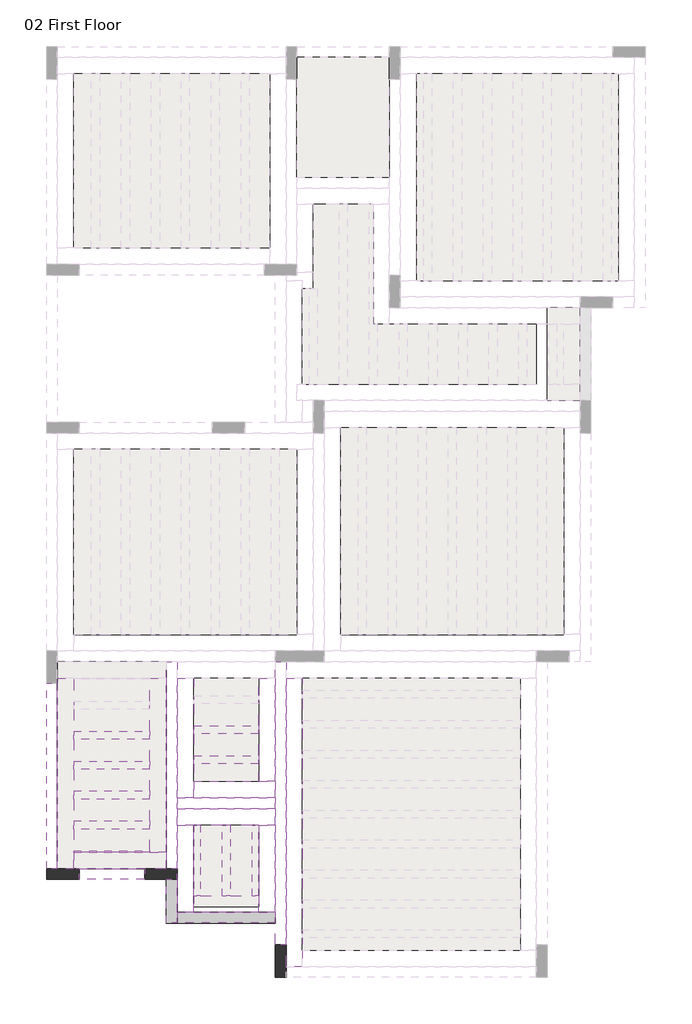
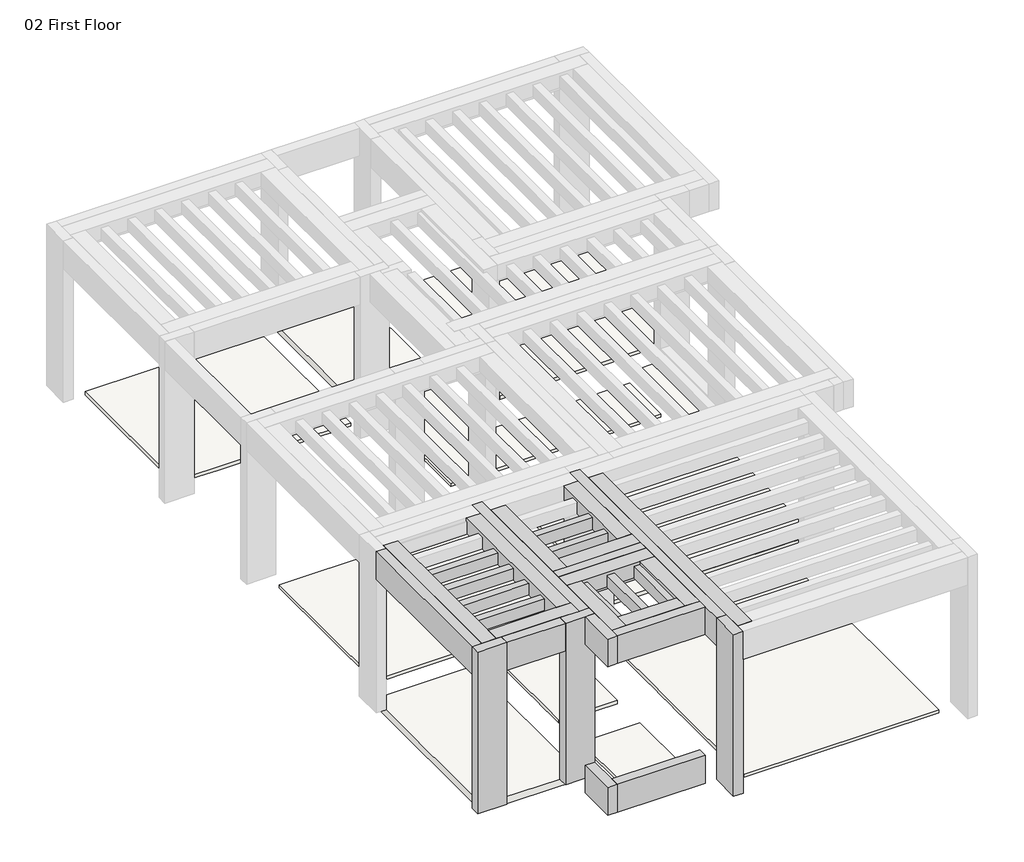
# One storey, part 1 of 3: 30 beams, 11 slabs, 3 columns.
"""IFC4 building model written with IfcOpenShell, lengths in millimetres."""

from ifc_helpers import new_model, si_unit, frame, origin, place, context, project, spatial, polyline, outline, extrude, faceted_brep, element, save

model = new_model("IFC4")

# Units and contexts
model_context = context("Model", 3, world=origin())
ifc_project = project(units=[si_unit("LENGTHUNIT", "METRE", prefix="MILLI")], contexts=[model_context])

# Site, building, storey
site = spatial("IfcSite", under=ifc_project)
building = spatial("IfcBuilding", under=site)
storey = spatial("IfcBuildingStorey", under=building, Name="02 First Floor", Elevation=3500.0)

# Beams
placement = place(None, origin())
element("IfcBeam", 1, ObjectType="M_Concrete-Rectangular Beam : DB1- 20 x 60 cm", at=placement, inside=storey, context=model_context, shape_type="Brep", body=[
    faceted_brep([(-5601.9262989, -3455.0041655, 7000.0), (-5801.9262989, -3455.0041655, 7000.0), (-5801.9262989, -6855.0041655, 7000.0), (-5601.9262989, -6855.0041655, 7000.0), (-5801.9262989, -3455.0041655, 6400.0), (-5801.9262989, -6855.0041655, 6400.0), (-5601.9262989, -3455.0041655, 6400.0), (-5601.9262989, -6855.0041655, 6400.0), (-5601.9262989, -6855.0041655, 6680.0)], [[[0, 1, 2, 3]], [[1, 4, 5, 2]], [[4, 6, 7, 5]], [[6, 0, 3, 8, 7]], [[1, 0, 6, 4]], [[3, 2, 5, 7, 8]]]),
])
element("IfcBeam", 2, ObjectType="M_Concrete-Rectangular Beam : DB1- 20 x 60 cm", at=placement, inside=storey, context=model_context, shape_type="SweptSolid", body=[
    extrude(outline(polyline([(-5201.9262989, -7055.0041655), (-5201.9262989, -6855.0041655), (-4001.9262989, -6855.0041655), (-4001.9262989, -7055.0041655), (-5201.9262989, -7055.0041655)])), frame((0.0, 0.0, 6400.0), z_axis=(0.0, 0.0, 1.0), x_axis=(1.0, 0.0, 0.0)), (0.0, 0.0, 1.0), 600.0),
])
element("IfcBeam", 3, ObjectType="M_Concrete-Rectangular Beam : DB1- 20 x 60 cm", at=placement, inside=storey, context=model_context, shape_type="Brep", body=[
    faceted_brep([(-3401.9262989, -5555.0041655, 7000.0), (-3401.9262989, -5755.0041655, 7000.0), (-1601.9262989, -5755.0041655, 7000.0), (-1601.9262989, -5555.0041655, 7000.0), (-3101.9262989, -5555.0041655, 7000.0), (-3401.9262989, -5555.0041655, 6400.0), (-3401.9262989, -5555.0041655, 6680.0), (-1601.9262989, -5555.0041655, 6680.0), (-1601.9262989, -5555.0041655, 6400.0), (-3401.9262989, -5755.0041655, 6400.0), (-1601.9262989, -5755.0041655, 6400.0), (-3401.9262989, -5755.0041655, 6680.0), (-1601.9262989, -5755.0041655, 6680.0)], [[[0, 1, 2, 3, 4]], [[5, 6, 0, 4, 3, 7, 8]], [[9, 5, 8, 10]], [[1, 11, 9, 10, 12, 2]], [[1, 0, 6, 5, 9, 11]], [[3, 2, 12, 10, 8, 7]]]),
])
element("IfcBeam", 4, ObjectType="M_Concrete-Rectangular Beam : DB1- 20 x 60 cm", at=placement, inside=storey, context=model_context, shape_type="Brep", body=[
    faceted_brep([(-3401.9262989, -7655.0041655, 7000.0), (-3401.9262989, -7855.0041655, 7000.0), (-1601.9262989, -7855.0041655, 7000.0), (-1601.9262989, -7655.0041655, 7000.0), (-1901.9262989, -7655.0041655, 7000.0), (-3101.9262989, -7655.0041655, 7000.0), (-3401.9262989, -7655.0041655, 6400.0), (-3401.9262989, -7655.0041655, 6680.0), (-1601.9262989, -7655.0041655, 6680.0), (-1601.9262989, -7655.0041655, 6400.0), (-3401.9262989, -7855.0041655, 6400.0), (-1601.9262989, -7855.0041655, 6400.0)], [[[0, 1, 2, 3, 4, 5]], [[6, 7, 0, 5, 4, 3, 8, 9]], [[10, 6, 9, 11]], [[1, 10, 11, 2]], [[1, 0, 7, 6, 10]], [[3, 2, 11, 9, 8]]]),
])
element("IfcBeam", 5, ObjectType="M_Concrete-Rectangular Beam : DB1- 20 x 60 cm", at=placement, inside=storey, context=model_context, shape_type="Brep", body=[
    faceted_brep([(-1601.9262989, -7855.0041655, 3780.0), (-1601.9262989, -7855.0041655, 3180.0), (-1601.9262989, -7655.0041655, 3180.0), (-1601.9262989, -7655.0041655, 3500.0), (-1601.9262989, -7655.0041655, 3780.0), (-3401.9262989, -7655.0041655, 3780.0), (-3401.9262989, -7855.0041655, 3780.0), (-3101.9262989, -7655.0041655, 3180.0), (-3401.9262989, -7655.0041655, 3180.0), (-3401.9262989, -7655.0041655, 3500.0), (-3401.9262989, -7855.0041655, 3180.0)], [[[0, 1, 2, 3, 4]], [[0, 4, 5, 6]], [[4, 3, 2, 7, 8, 9, 5]], [[2, 1, 10, 8, 7]], [[1, 0, 6, 10]], [[6, 5, 9, 8, 10]]]),
])
element("IfcBeam", 6, ObjectType="M_Concrete-Rectangular Beam : DB2- 20 x 60 cm", at=placement, inside=storey, context=model_context, shape_type="Brep", body=[
    faceted_brep([(-3401.9262989, -3055.0041655, 7000.0), (-3601.9262989, -3055.0041655, 7000.0), (-3601.9262989, -3355.0041655, 7000.0), (-3601.9262989, -6555.0041655, 7000.0), (-3601.9262989, -6855.0041655, 7000.0), (-3401.9262989, -6855.0041655, 7000.0), (-3401.9262989, -6055.0041655, 7000.0), (-3401.9262989, -5755.0041655, 7000.0), (-3401.9262989, -5555.0041655, 7000.0), (-3401.9262989, -3355.0041655, 7000.0), (-3401.9262989, -3055.0041655, 6400.0), (-3401.9262989, -3055.0041655, 6680.0), (-3401.9262989, -6855.0041655, 6400.0), (-3401.9262989, -5755.0041655, 6400.0), (-3401.9262989, -5555.0041655, 6400.0), (-3601.9262989, -3055.0041655, 6400.0), (-3601.9262989, -6855.0041655, 6400.0), (-3601.9262989, -3055.0041655, 6680.0), (-3601.9262989, -6855.0041655, 6680.0)], [[[0, 1, 2, 3, 4, 5, 6, 7, 8, 9]], [[10, 11, 0, 9, 8, 7, 6, 5, 12, 13, 14]], [[15, 10, 14, 13, 12, 16]], [[1, 17, 15, 16, 18, 4, 3, 2]], [[1, 0, 11, 10, 15, 17]], [[5, 4, 18, 16, 12]]]),
])
element("IfcBeam", 7, ObjectType="M_Concrete-Rectangular Beam : DB2- 20 x 60 cm", at=placement, inside=storey, context=model_context, shape_type="Brep", body=[
    faceted_brep([(-1601.9262989, -8255.0041655, 7000.0), (-1401.9262989, -8255.0041655, 7000.0), (-1401.9262989, -3355.0041655, 7000.0), (-1401.9262989, -3055.0041655, 7000.0), (-1601.9262989, -3055.0041655, 7000.0), (-1601.9262989, -3355.0041655, 7000.0), (-1601.9262989, -5255.0041655, 7000.0), (-1601.9262989, -5555.0041655, 7000.0), (-1601.9262989, -5755.0041655, 7000.0), (-1601.9262989, -6055.0041655, 7000.0), (-1601.9262989, -7655.0041655, 7000.0), (-1601.9262989, -7855.0041655, 7000.0), (-1401.9262989, -8255.0041655, 6400.0), (-1401.9262989, -3055.0041655, 6400.0), (-1401.9262989, -3055.0041655, 6680.0), (-1601.9262989, -8255.0041655, 6400.0), (-1601.9262989, -7855.0041655, 6400.0), (-1601.9262989, -7655.0041655, 6400.0), (-1601.9262989, -5755.0041655, 6400.0), (-1601.9262989, -5555.0041655, 6400.0), (-1601.9262989, -3055.0041655, 6400.0), (-1601.9262989, -3055.0041655, 6680.0)], [[[0, 1, 2, 3, 4, 5, 6, 7, 8, 9, 10, 11]], [[1, 12, 13, 14, 3, 2]], [[12, 15, 16, 17, 18, 19, 20, 13]], [[15, 0, 11, 10, 9, 8, 7, 6, 5, 4, 21, 20, 19, 18, 17, 16]], [[1, 0, 15, 12]], [[4, 3, 14, 13, 20, 21]]]),
])
element("IfcBeam", 8, ObjectType="M_Concrete-Rectangular Beam : DBC- 20 x 60 cm", at=placement, inside=storey, context=model_context, shape_type="Brep", body=[
    faceted_brep([(-3601.9262989, -7855.0041655, 7000.0), (-3401.9262989, -7855.0041655, 7000.0), (-3401.9262989, -7655.0041655, 7000.0), (-3401.9262989, -7055.0041655, 7000.0), (-3601.9262989, -7055.0041655, 7000.0), (-3601.9262989, -7855.0041655, 6400.0), (-3601.9262989, -7055.0041655, 6400.0), (-3401.9262989, -7855.0041655, 6400.0), (-3401.9262989, -7055.0041655, 6400.0), (-3401.9262989, -7655.0041655, 6400.0)], [[[0, 1, 2, 3, 4]], [[5, 0, 4, 6]], [[7, 5, 6, 8, 9]], [[1, 7, 9, 8, 3, 2]], [[4, 3, 8, 6]], [[1, 0, 5, 7]]]),
])
element("IfcBeam", 9, ObjectType="M_Concrete-Rectangular Beam : DBC- 20 x 60 cm", at=placement, inside=storey, context=model_context, shape_type="Brep", body=[
    faceted_brep([(-3401.9262989, -7055.0041655, 3780.0), (-3601.9262989, -7055.0041655, 3780.0), (-3601.9262989, -7855.0041655, 3780.0), (-3401.9262989, -7855.0041655, 3780.0), (-3401.9262989, -7655.0041655, 3780.0), (-3601.9262989, -7055.0041655, 3180.0), (-3601.9262989, -7855.0041655, 3180.0), (-3401.9262989, -7855.0041655, 3180.0), (-3401.9262989, -7055.0041655, 3180.0), (-3401.9262989, -7655.0041655, 3180.0), (-3401.9262989, -7055.0041655, 3500.0)], [[[0, 1, 2, 3, 4]], [[1, 5, 6, 2]], [[7, 6, 5, 8, 9]], [[8, 10, 0, 4, 3, 7, 9]], [[1, 0, 10, 8, 5]], [[3, 2, 6, 7]]]),
])
element("IfcBeam", 10, ObjectType="M_Concrete-Rectangular Beam : P- 30 x 32 cm", at=placement, inside=storey, context=model_context, shape_type="Brep", body=[
    faceted_brep([(-1401.9262989, -8655.0041655, 7000.0), (-1101.9262989, -8655.0041655, 7000.0), (-1101.9262989, -8355.0041655, 7000.0), (-1101.9262989, -3355.0041655, 7000.0), (-1401.9262989, -3355.0041655, 7000.0), (-1401.9262989, -8255.0041655, 7000.0), (-1401.9262989, -8655.0041655, 6680.0), (-1401.9262989, -3355.0041655, 6680.0), (-1101.9262989, -8655.0041655, 6680.0), (-1101.9262989, -3355.0041655, 6680.0), (-1101.9262989, -3580.0041655, 6680.0), (-1101.9262989, -3730.0041655, 6680.0), (-1101.9262989, -4130.0041655, 6680.0), (-1101.9262989, -4280.0041655, 6680.0), (-1101.9262989, -4680.0041655, 6680.0), (-1101.9262989, -4830.0041655, 6680.0), (-1101.9262989, -5230.0041655, 6680.0), (-1101.9262989, -5380.0041655, 6680.0), (-1101.9262989, -5780.0041655, 6680.0), (-1101.9262989, -5930.0041655, 6680.0), (-1101.9262989, -6330.0041655, 6680.0), (-1101.9262989, -6480.0041655, 6680.0), (-1101.9262989, -6880.0041655, 6680.0), (-1101.9262989, -7030.0041655, 6680.0), (-1101.9262989, -7430.0041655, 6680.0), (-1101.9262989, -7580.0041655, 6680.0), (-1101.9262989, -7980.0041655, 6680.0), (-1101.9262989, -8130.0041655, 6680.0), (-1101.9262989, -8355.0041655, 6680.0), (-1101.9262989, -3355.0041655, 6930.0)], [[[0, 1, 2, 3, 4, 5]], [[6, 0, 5, 4, 7]], [[8, 6, 7, 9, 10, 11, 12, 13, 14, 15, 16, 17, 18, 19, 20, 21, 22, 23, 24, 25, 26, 27, 28]], [[1, 8, 28, 27, 26, 25, 24, 23, 22, 21, 20, 19, 18, 17, 16, 15, 14, 13, 12, 11, 10, 9, 29, 3, 2]], [[4, 3, 29, 9, 7]], [[1, 0, 6, 8]]]),
])
element("IfcBeam", 11, ObjectType="M_Concrete-Rectangular Beam : P- 30 x 32 cm", at=placement, inside=storey, context=model_context, shape_type="Brep", body=[
    faceted_brep([(-3401.9262989, -5555.0041655, 7000.0), (-3101.9262989, -5555.0041655, 7000.0), (-3101.9262989, -5255.0041655, 7000.0), (-3101.9262989, -3355.0041655, 7000.0), (-3401.9262989, -3355.0041655, 7000.0), (-3401.9262989, -5555.0041655, 6680.0), (-3401.9262989, -3355.0041655, 6680.0), (-3101.9262989, -5555.0041655, 6680.0), (-3101.9262989, -3355.0041655, 6680.0), (-3101.9262989, -3680.0041655, 6680.0), (-3101.9262989, -3830.0041655, 6680.0), (-3101.9262989, -4230.0041655, 6680.0), (-3101.9262989, -4380.0041655, 6680.0), (-3101.9262989, -4780.0041655, 6680.0), (-3101.9262989, -4930.0041655, 6680.0), (-3101.9262989, -5255.0041655, 6680.0), (-3101.9262989, -3355.0041655, 6930.0)], [[[0, 1, 2, 3, 4]], [[5, 0, 4, 6]], [[7, 5, 6, 8, 9, 10, 11, 12, 13, 14, 15]], [[1, 7, 15, 14, 13, 12, 11, 10, 9, 8, 16, 3, 2]], [[4, 3, 16, 8, 6]], [[1, 0, 5, 7]]]),
])
element("IfcBeam", 12, ObjectType="M_Concrete-Rectangular Beam : P- 30 x 32 cm", at=placement, inside=storey, context=model_context, shape_type="Brep", body=[
    faceted_brep([(-1601.9262989, -5555.0041655, 7000.0), (-1601.9262989, -5255.0041655, 7000.0), (-1901.9262989, -5255.0041655, 7000.0), (-3101.9262989, -5255.0041655, 7000.0), (-3101.9262989, -5555.0041655, 7000.0), (-1601.9262989, -5555.0041655, 6680.0), (-3101.9262989, -5555.0041655, 6680.0), (-1601.9262989, -5255.0041655, 6680.0), (-3101.9262989, -5255.0041655, 6680.0), (-1901.9262989, -5255.0041655, 6680.0), (-3101.9262989, -5255.0041655, 6930.0)], [[[0, 1, 2, 3, 4]], [[5, 0, 4, 6]], [[7, 5, 6, 8, 9]], [[1, 7, 9, 8, 10, 3, 2]], [[4, 3, 10, 8, 6]], [[1, 0, 5, 7]]]),
])
element("IfcBeam", 13, ObjectType="M_Concrete-Rectangular Beam : P- 30 x 32 cm", at=placement, inside=storey, context=model_context, shape_type="Brep", body=[
    faceted_brep([(-1901.9262989, -5255.0041655, 7000.0), (-1601.9262989, -5255.0041655, 7000.0), (-1601.9262989, -3355.0041655, 7000.0), (-1901.9262989, -3355.0041655, 7000.0), (-1601.9262989, -5255.0041655, 6680.0), (-1601.9262989, -3355.0041655, 6680.0), (-1901.9262989, -5255.0041655, 6680.0), (-1901.9262989, -4930.0041655, 6680.0), (-1901.9262989, -4780.0041655, 6680.0), (-1901.9262989, -4380.0041655, 6680.0), (-1901.9262989, -4230.0041655, 6680.0), (-1901.9262989, -3830.0041655, 6680.0), (-1901.9262989, -3680.0041655, 6680.0), (-1901.9262989, -3355.0041655, 6680.0), (-1901.9262989, -5255.0041655, 6930.0), (-1901.9262989, -3355.0041655, 6930.0)], [[[0, 1, 2, 3]], [[1, 4, 5, 2]], [[4, 6, 7, 8, 9, 10, 11, 12, 13, 5]], [[6, 14, 0, 3, 15, 13, 12, 11, 10, 9, 8, 7]], [[1, 0, 14, 6, 4]], [[3, 2, 5, 13, 15]]]),
])
element("IfcBeam", 14, ObjectType="M_Concrete-Rectangular Beam : P- 30 x 32 cm", at=placement, inside=storey, context=model_context, shape_type="Brep", body=[
    faceted_brep([(-3401.9262989, -5755.0041655, 7000.0), (-3401.9262989, -6055.0041655, 7000.0), (-3101.9262989, -6055.0041655, 7000.0), (-1901.9262989, -6055.0041655, 7000.0), (-1601.9262989, -6055.0041655, 7000.0), (-1601.9262989, -5755.0041655, 7000.0), (-3401.9262989, -5755.0041655, 6680.0), (-1601.9262989, -5755.0041655, 6680.0), (-3401.9262989, -6055.0041655, 6680.0), (-1601.9262989, -6055.0041655, 6680.0), (-1901.9262989, -6055.0041655, 6680.0), (-2026.9262989, -6055.0041655, 6680.0), (-2426.9262989, -6055.0041655, 6680.0), (-2576.9262989, -6055.0041655, 6680.0), (-2976.9262989, -6055.0041655, 6680.0), (-3101.9262989, -6055.0041655, 6680.0)], [[[0, 1, 2, 3, 4, 5]], [[6, 0, 5, 7]], [[8, 6, 7, 9, 10, 11, 12, 13, 14, 15]], [[1, 8, 15, 14, 13, 12, 11, 10, 9, 4, 3, 2]], [[1, 0, 6, 8]], [[5, 4, 9, 7]]]),
])
element("IfcBeam", 15, ObjectType="M_Concrete-Rectangular Beam : P- 30 x 32 cm", at=placement, inside=storey, context=model_context, shape_type="Brep", body=[
    faceted_brep([(-3101.9262989, -6055.0041655, 7000.0), (-3401.9262989, -6055.0041655, 7000.0), (-3401.9262989, -6855.0041655, 7000.0), (-3401.9262989, -7055.0041655, 7000.0), (-3401.9262989, -7655.0041655, 7000.0), (-3101.9262989, -7655.0041655, 7000.0), (-3101.9262989, -7355.0041655, 7000.0), (-3401.9262989, -6055.0041655, 6680.0), (-3401.9262989, -7655.0041655, 6680.0), (-3101.9262989, -6055.0041655, 6680.0), (-3101.9262989, -7355.0041655, 6680.0), (-3101.9262989, -7655.0041655, 6680.0), (-3101.9262989, -6055.0041655, 6930.0)], [[[0, 1, 2, 3, 4, 5, 6]], [[1, 7, 8, 4, 3, 2]], [[7, 9, 10, 11, 8]], [[9, 12, 0, 6, 5, 11, 10]], [[1, 0, 12, 9, 7]], [[5, 4, 8, 11]]]),
])
element("IfcBeam", 16, ObjectType="M_Concrete-Rectangular Beam : P- 30 x 32 cm", at=placement, inside=storey, context=model_context, shape_type="Brep", body=[
    faceted_brep([(-3101.9262989, -7355.0041655, 7000.0), (-3101.9262989, -7655.0041655, 7000.0), (-1901.9262989, -7655.0041655, 7000.0), (-1901.9262989, -7355.0041655, 7000.0), (-3101.9262989, -7655.0041655, 6680.0), (-1901.9262989, -7655.0041655, 6680.0), (-3101.9262989, -7355.0041655, 6680.0), (-2976.9262989, -7355.0041655, 6680.0), (-2576.9262989, -7355.0041655, 6680.0), (-2426.9262989, -7355.0041655, 6680.0), (-2026.9262989, -7355.0041655, 6680.0), (-1901.9262989, -7355.0041655, 6680.0), (-3101.9262989, -7355.0041655, 6930.0), (-1901.9262989, -7355.0041655, 6930.0)], [[[0, 1, 2, 3]], [[1, 4, 5, 2]], [[4, 6, 7, 8, 9, 10, 11, 5]], [[6, 12, 0, 3, 13, 11, 10, 9, 8, 7]], [[1, 0, 12, 6, 4]], [[3, 2, 5, 11, 13]]]),
])
element("IfcBeam", 17, ObjectType="M_Concrete-Rectangular Beam : P- 30 x 32 cm", at=placement, inside=storey, context=model_context, shape_type="Brep", body=[
    faceted_brep([(-1601.9262989, -6055.0041655, 7000.0), (-1901.9262989, -6055.0041655, 7000.0), (-1901.9262989, -7355.0041655, 7000.0), (-1901.9262989, -7655.0041655, 7000.0), (-1601.9262989, -7655.0041655, 7000.0), (-1601.9262989, -6055.0041655, 6680.0), (-1601.9262989, -7655.0041655, 6680.0), (-1901.9262989, -6055.0041655, 6680.0), (-1901.9262989, -7655.0041655, 6680.0), (-1901.9262989, -7355.0041655, 6680.0), (-1901.9262989, -6055.0041655, 6930.0)], [[[0, 1, 2, 3, 4]], [[5, 0, 4, 6]], [[7, 5, 6, 8, 9]], [[1, 10, 7, 9, 8, 3, 2]], [[1, 0, 5, 7, 10]], [[4, 3, 8, 6]]]),
])
element("IfcBeam", 18, ObjectType="M_Concrete-Rectangular Beam : P- 30 x 32 cm", at=placement, inside=storey, context=model_context, shape_type="Brep", body=[
    faceted_brep([(-5601.9262989, -6855.0041655, 7000.0), (-5301.9262989, -6855.0041655, 7000.0), (-5301.9262989, -6555.0041655, 7000.0), (-5301.9262989, -3355.0041655, 7000.0), (-5601.9262989, -3355.0041655, 7000.0), (-5601.9262989, -3455.0041655, 7000.0), (-5601.9262989, -6855.0041655, 6680.0), (-5601.9262989, -3355.0041655, 6680.0), (-5301.9262989, -6855.0041655, 6680.0), (-5301.9262989, -3355.0041655, 6680.0), (-5301.9262989, -3380.0041655, 6680.0), (-5301.9262989, -3780.0041655, 6680.0), (-5301.9262989, -3930.0041655, 6680.0), (-5301.9262989, -4330.0041655, 6680.0), (-5301.9262989, -4480.0041655, 6680.0), (-5301.9262989, -4880.0041655, 6680.0), (-5301.9262989, -5030.0041655, 6680.0), (-5301.9262989, -5430.0041655, 6680.0), (-5301.9262989, -5580.0041655, 6680.0), (-5301.9262989, -5980.0041655, 6680.0), (-5301.9262989, -6130.0041655, 6680.0), (-5301.9262989, -6530.0041655, 6680.0), (-5301.9262989, -6555.0041655, 6680.0), (-5301.9262989, -3355.0041655, 6930.0)], [[[0, 1, 2, 3, 4, 5]], [[6, 0, 5, 4, 7]], [[8, 6, 7, 9, 10, 11, 12, 13, 14, 15, 16, 17, 18, 19, 20, 21, 22]], [[1, 8, 22, 21, 20, 19, 18, 17, 16, 15, 14, 13, 12, 11, 10, 9, 23, 3, 2]], [[4, 3, 23, 9, 7]], [[1, 0, 6, 8]]]),
])
element("IfcBeam", 19, ObjectType="M_Concrete-Rectangular Beam : P- 30 x 32 cm", at=placement, inside=storey, context=model_context, shape_type="Brep", body=[
    faceted_brep([(-3601.9262989, -6855.0041655, 7000.0), (-3601.9262989, -6555.0041655, 7000.0), (-3901.9262989, -6555.0041655, 7000.0), (-5301.9262989, -6555.0041655, 7000.0), (-5301.9262989, -6855.0041655, 7000.0), (-5201.9262989, -6855.0041655, 7000.0), (-4001.9262989, -6855.0041655, 7000.0), (-3601.9262989, -6855.0041655, 6680.0), (-5301.9262989, -6855.0041655, 6680.0), (-3601.9262989, -6555.0041655, 6680.0), (-5301.9262989, -6555.0041655, 6680.0), (-3901.9262989, -6555.0041655, 6680.0), (-5301.9262989, -6555.0041655, 6930.0)], [[[0, 1, 2, 3, 4, 5, 6]], [[7, 0, 6, 5, 4, 8]], [[9, 7, 8, 10, 11]], [[1, 9, 11, 10, 12, 3, 2]], [[4, 3, 12, 10, 8]], [[1, 0, 7, 9]]]),
])
element("IfcBeam", 20, ObjectType="M_Concrete-Rectangular Beam : P- 30 x 32 cm", at=placement, inside=storey, context=model_context, shape_type="Brep", body=[
    faceted_brep([(-3601.9262989, -3355.0041655, 7000.0), (-3901.9262989, -3355.0041655, 7000.0), (-3901.9262989, -6555.0041655, 7000.0), (-3601.9262989, -6555.0041655, 7000.0), (-3601.9262989, -3355.0041655, 6680.0), (-3601.9262989, -6555.0041655, 6680.0), (-3901.9262989, -3355.0041655, 6680.0), (-3901.9262989, -6555.0041655, 6680.0), (-3901.9262989, -6530.0041655, 6680.0), (-3901.9262989, -6130.0041655, 6680.0), (-3901.9262989, -5980.0041655, 6680.0), (-3901.9262989, -5580.0041655, 6680.0), (-3901.9262989, -5430.0041655, 6680.0), (-3901.9262989, -5030.0041655, 6680.0), (-3901.9262989, -4880.0041655, 6680.0), (-3901.9262989, -4480.0041655, 6680.0), (-3901.9262989, -4330.0041655, 6680.0), (-3901.9262989, -3930.0041655, 6680.0), (-3901.9262989, -3780.0041655, 6680.0), (-3901.9262989, -3380.0041655, 6680.0), (-3901.9262989, -3355.0041655, 6930.0), (-3901.9262989, -6555.0041655, 6930.0)], [[[0, 1, 2, 3]], [[4, 0, 3, 5]], [[6, 4, 5, 7, 8, 9, 10, 11, 12, 13, 14, 15, 16, 17, 18, 19]], [[1, 20, 6, 19, 18, 17, 16, 15, 14, 13, 12, 11, 10, 9, 8, 7, 21, 2]], [[1, 0, 4, 6, 20]], [[3, 2, 21, 7, 5]]]),
])
element("IfcBeam", 21, ObjectType="M_Pan Joist : RB1- 32 x 15", at=placement, inside=storey, context=model_context, shape_type="SweptSolid", body=[
    extrude(outline(polyline([(-3101.9262989, -4930.0041655), (-3101.9262989, -4780.0041655), (-1901.9262989, -4780.0041655), (-1901.9262989, -4930.0041655), (-3101.9262989, -4930.0041655)])), frame((0.0, 0.0, 6680.0), z_axis=(0.0, 0.0, 1.0), x_axis=(1.0, 0.0, 0.0)), (0.0, 0.0, 1.0), 250.0),
])
element("IfcBeam", 22, ObjectType="M_Pan Joist : RB1- 32 x 15", at=placement, inside=storey, context=model_context, shape_type="SweptSolid", body=[
    extrude(outline(polyline([(-3101.9262989, -4380.0041655), (-3101.9262989, -4230.0041655), (-1901.9262989, -4230.0041655), (-1901.9262989, -4380.0041655), (-3101.9262989, -4380.0041655)])), frame((0.0, 0.0, 6680.0), z_axis=(0.0, 0.0, 1.0), x_axis=(1.0, 0.0, 0.0)), (0.0, 0.0, 1.0), 250.0),
])
element("IfcBeam", 23, ObjectType="M_Pan Joist : RB1- 32 x 15", at=placement, inside=storey, context=model_context, shape_type="SweptSolid", body=[
    extrude(outline(polyline([(-3101.9262989, -6055.0041655), (-2976.9262989, -6055.0041655), (-2976.9262989, -7355.0041655), (-3101.9262989, -7355.0041655), (-3101.9262989, -6055.0041655)])), frame((0.0, 0.0, 6680.0), z_axis=(0.0, 0.0, 1.0), x_axis=(1.0, 0.0, 0.0)), (0.0, 0.0, 1.0), 250.0),
])
element("IfcBeam", 24, ObjectType="M_Pan Joist : RB1- 32 x 15", at=placement, inside=storey, context=model_context, shape_type="SweptSolid", body=[
    extrude(outline(polyline([(-2576.9262989, -6055.0041655), (-2426.9262989, -6055.0041655), (-2426.9262989, -7355.0041655), (-2576.9262989, -7355.0041655), (-2576.9262989, -6055.0041655)])), frame((0.0, 0.0, 6680.0), z_axis=(0.0, 0.0, 1.0), x_axis=(1.0, 0.0, 0.0)), (0.0, 0.0, 1.0), 250.0),
])
element("IfcBeam", 25, ObjectType="M_Pan Joist : RB1- 32 x 15", at=placement, inside=storey, context=model_context, shape_type="SweptSolid", body=[
    extrude(outline(polyline([(-2026.9262989, -6055.0041655), (-1901.9262989, -6055.0041655), (-1901.9262989, -7355.0041655), (-2026.9262989, -7355.0041655), (-2026.9262989, -6055.0041655)])), frame((0.0, 0.0, 6680.0), z_axis=(0.0, 0.0, 1.0), x_axis=(1.0, 0.0, 0.0)), (0.0, 0.0, 1.0), 250.0),
])
element("IfcBeam", 26, ObjectType="M_Pan Joist : RB1- 32 x 15", at=placement, inside=storey, context=model_context, shape_type="SweptSolid", body=[
    extrude(outline(polyline([(-5301.9262989, -6530.0041655), (-3901.9262989, -6530.0041655), (-3901.9262989, -6555.0041655), (-5301.9262989, -6555.0041655), (-5301.9262989, -6530.0041655)])), frame((0.0, 0.0, 6680.0), z_axis=(0.0, 0.0, 1.0), x_axis=(1.0, 0.0, 0.0)), (0.0, 0.0, 1.0), 250.0),
])
element("IfcBeam", 27, ObjectType="M_Pan Joist : RB1- 32 x 15", at=placement, inside=storey, context=model_context, shape_type="SweptSolid", body=[
    extrude(outline(polyline([(-5301.9262989, -6130.0041655), (-5301.9262989, -5980.0041655), (-3901.9262989, -5980.0041655), (-3901.9262989, -6130.0041655), (-5301.9262989, -6130.0041655)])), frame((0.0, 0.0, 6680.0), z_axis=(0.0, 0.0, 1.0), x_axis=(1.0, 0.0, 0.0)), (0.0, 0.0, 1.0), 250.0),
])
element("IfcBeam", 28, ObjectType="M_Pan Joist : RB1- 32 x 15", at=placement, inside=storey, context=model_context, shape_type="SweptSolid", body=[
    extrude(outline(polyline([(-5301.9262989, -5580.0041655), (-5301.9262989, -5430.0041655), (-3901.9262989, -5430.0041655), (-3901.9262989, -5580.0041655), (-5301.9262989, -5580.0041655)])), frame((0.0, 0.0, 6680.0), z_axis=(0.0, 0.0, 1.0), x_axis=(1.0, 0.0, 0.0)), (0.0, 0.0, 1.0), 250.0),
])
element("IfcBeam", 29, ObjectType="M_Pan Joist : RB1- 32 x 15", at=placement, inside=storey, context=model_context, shape_type="SweptSolid", body=[
    extrude(outline(polyline([(-5301.9262989, -5030.0041655), (-5301.9262989, -4880.0041655), (-3901.9262989, -4880.0041655), (-3901.9262989, -5030.0041655), (-5301.9262989, -5030.0041655)])), frame((0.0, 0.0, 6680.0), z_axis=(0.0, 0.0, 1.0), x_axis=(1.0, 0.0, 0.0)), (0.0, 0.0, 1.0), 250.0),
])
element("IfcBeam", 30, ObjectType="M_Pan Joist : RB1- 32 x 15", at=placement, inside=storey, context=model_context, shape_type="SweptSolid", body=[
    extrude(outline(polyline([(-5301.9262989, -4480.0041655), (-5301.9262989, -4330.0041655), (-3901.9262989, -4330.0041655), (-3901.9262989, -4480.0041655), (-5301.9262989, -4480.0041655)])), frame((0.0, 0.0, 6680.0), z_axis=(0.0, 0.0, 1.0), x_axis=(1.0, 0.0, 0.0)), (0.0, 0.0, 1.0), 250.0),
])

# Columns
element("IfcColumn", 31, ObjectType="M_Concrete-Rectangular-Column : 20 x 60 cm", at=placement, inside=storey, context=model_context, shape_type="Brep", body=[
    faceted_brep([(-5201.9262989, -7055.0041655, 3500.0), (-5801.9262989, -7055.0041655, 3500.0), (-5801.9262989, -6855.0041655, 3500.0), (-5201.9262989, -6855.0041655, 3500.0), (-5201.9262989, -7055.0041655, 7000.0), (-5801.9262989, -7055.0041655, 7000.0), (-5801.9262989, -6855.0041655, 7000.0), (-5601.9262989, -6855.0041655, 7000.0), (-5301.9262989, -6855.0041655, 7000.0), (-5201.9262989, -6855.0041655, 7000.0)], [[[0, 1, 2, 3]], [[4, 5, 1, 0]], [[5, 6, 2, 1]], [[6, 7, 8, 9, 3, 2]], [[9, 4, 0, 3]], [[4, 9, 8, 7, 6, 5]]]),
])
element("IfcColumn", 32, ObjectType="M_Concrete-Rectangular-Column : 20 x 60 cm", at=placement, inside=storey, context=model_context, shape_type="Brep", body=[
    faceted_brep([(-3401.9262989, -7055.0041655, 3500.0), (-4001.9262989, -7055.0041655, 3500.0), (-4001.9262989, -6855.0041655, 3500.0), (-3401.9262989, -6855.0041655, 3500.0), (-3401.9262989, -7055.0041655, 7000.0), (-4001.9262989, -7055.0041655, 7000.0), (-4001.9262989, -6855.0041655, 7000.0), (-3601.9262989, -6855.0041655, 7000.0), (-3401.9262989, -6855.0041655, 7000.0)], [[[0, 1, 2, 3]], [[4, 5, 1, 0]], [[5, 6, 2, 1]], [[6, 7, 8, 3, 2]], [[8, 4, 0, 3]], [[4, 8, 7, 6, 5]]]),
])
element("IfcColumn", 33, ObjectType="M_Concrete-Rectangular-Column : 20 x 60 cm", at=placement, inside=storey, context=model_context, shape_type="Brep", body=[
    faceted_brep([(-1401.9262989, -8255.0041655, 3500.0), (-1401.9262989, -8855.0041655, 3500.0), (-1601.9262989, -8855.0041655, 3500.0), (-1601.9262989, -8255.0041655, 3500.0), (-1401.9262989, -8255.0041655, 7000.0), (-1401.9262989, -8655.0041655, 7000.0), (-1401.9262989, -8855.0041655, 7000.0), (-1601.9262989, -8855.0041655, 7000.0), (-1601.9262989, -8255.0041655, 7000.0)], [[[0, 1, 2, 3]], [[4, 5, 6, 1, 0]], [[6, 7, 2, 1]], [[7, 8, 3, 2]], [[8, 4, 0, 3]], [[4, 8, 7, 6, 5]]]),
])

# Slabs
element("IfcSlab", 34, ObjectType="Generic 15 cm", at=placement, inside=storey, context=model_context, shape_type="SweptSolid", body=[
    extrude(outline(polyline([(-1201.9262989, 8044.9958345), (498.0737011, 8044.9958345), (498.0737011, 5844.9958345), (-1201.9262989, 5844.9958345), (-1201.9262989, 8044.9958345)])), frame((0.0, 0.0, 3180.0), z_axis=(0.0, 0.0, 1.0), x_axis=(1.0, 0.0, 0.0)), (0.0, 0.0, 1.0), 150.0),
])
element("IfcSlab", 35, ObjectType="Generic 15 cm", at=placement, inside=storey, context=model_context, shape_type="Brep", body=[
    faceted_brep([(-5601.9262989, -3055.0041655, 3350.0), (-3601.9262989, -3055.0041655, 3350.0), (-3601.9262989, -6855.0041655, 3350.0), (-5601.9262989, -6855.0041655, 3350.0), (-5601.9262989, -3055.0041655, 3500.0), (-5601.9262989, -3455.0041655, 3500.0), (-5601.9262989, -6855.0041655, 3500.0), (-5201.9262989, -6855.0041655, 3500.0), (-4001.9262989, -6855.0041655, 3500.0), (-3601.9262989, -6855.0041655, 3500.0), (-3601.9262989, -3055.0041655, 3500.0)], [[[0, 1, 2, 3]], [[4, 5, 6, 7, 8, 9, 10]], [[1, 0, 4, 10]], [[2, 1, 10, 9]], [[3, 2, 9, 8, 7, 6]], [[0, 3, 6, 5, 4]]]),
])
element("IfcSlab", 36, ObjectType="Generic 7 cm", at=placement, inside=storey, context=model_context, shape_type="Brep", body=[
    faceted_brep([(-5301.9262989, 7744.9958345, 3430.0), (-4976.9262989, 7744.9958345, 3430.0), (-4826.9262989, 7744.9958345, 3430.0), (-4426.9262989, 7744.9958345, 3430.0), (-4276.9262989, 7744.9958345, 3430.0), (-3876.9262989, 7744.9958345, 3430.0), (-3726.9262989, 7744.9958345, 3430.0), (-3326.9262989, 7744.9958345, 3430.0), (-3176.9262989, 7744.9958345, 3430.0), (-2776.9262989, 7744.9958345, 3430.0), (-2626.9262989, 7744.9958345, 3430.0), (-2226.9262989, 7744.9958345, 3430.0), (-2076.9262989, 7744.9958345, 3430.0), (-1701.9262989, 7744.9958345, 3430.0), (-1701.9262989, 4544.9958345, 3430.0), (-2076.9262989, 4544.9958345, 3430.0), (-2226.9262989, 4544.9958345, 3430.0), (-2626.9262989, 4544.9958345, 3430.0), (-2776.9262989, 4544.9958345, 3430.0), (-3176.9262989, 4544.9958345, 3430.0), (-3326.9262989, 4544.9958345, 3430.0), (-3726.9262989, 4544.9958345, 3430.0), (-3876.9262989, 4544.9958345, 3430.0), (-4276.9262989, 4544.9958345, 3430.0), (-4426.9262989, 4544.9958345, 3430.0), (-4826.9262989, 4544.9958345, 3430.0), (-4976.9262989, 4544.9958345, 3430.0), (-5301.9262989, 4544.9958345, 3430.0), (-5301.9262989, 7744.9958345, 3500.0), (-5301.9262989, 4544.9958345, 3500.0), (-1701.9262989, 4544.9958345, 3500.0), (-1701.9262989, 7744.9958345, 3500.0)], [[[0, 1, 2, 3, 4, 5, 6, 7, 8, 9, 10, 11, 12, 13, 14, 15, 16, 17, 18, 19, 20, 21, 22, 23, 24, 25, 26, 27]], [[28, 29, 30, 31]], [[13, 12, 11, 10, 9, 8, 7, 6, 5, 4, 3, 2, 1, 0, 28, 31]], [[14, 13, 31, 30]], [[27, 26, 25, 24, 23, 22, 21, 20, 19, 18, 17, 16, 15, 14, 30, 29]], [[0, 27, 29, 28]]]),
])
element("IfcSlab", 37, ObjectType="Generic 7 cm", at=placement, inside=storey, context=model_context, shape_type="Brep", body=[
    faceted_brep([(998.0737011, 7744.9958345, 3430.0), (1123.0737011, 7744.9958345, 3430.0), (1273.0737011, 7744.9958345, 3430.0), (1673.0737011, 7744.9958345, 3430.0), (1823.0737011, 7744.9958345, 3430.0), (2223.0737011, 7744.9958345, 3430.0), (2373.0737011, 7744.9958345, 3430.0), (2773.0737011, 7744.9958345, 3430.0), (2923.0737011, 7744.9958345, 3430.0), (3323.0737011, 7744.9958345, 3430.0), (3473.0737011, 7744.9958345, 3430.0), (3873.0737011, 7744.9958345, 3430.0), (4023.0737011, 7744.9958345, 3430.0), (4423.0737011, 7744.9958345, 3430.0), (4573.0737011, 7744.9958345, 3430.0), (4698.0737011, 7744.9958345, 3430.0), (4698.0737011, 3944.9958345, 3430.0), (4573.0737011, 3944.9958345, 3430.0), (4423.0737011, 3944.9958345, 3430.0), (4023.0737011, 3944.9958345, 3430.0), (3873.0737011, 3944.9958345, 3430.0), (3473.0737011, 3944.9958345, 3430.0), (3323.0737011, 3944.9958345, 3430.0), (2923.0737011, 3944.9958345, 3430.0), (2773.0737011, 3944.9958345, 3430.0), (2373.0737011, 3944.9958345, 3430.0), (2223.0737011, 3944.9958345, 3430.0), (1823.0737011, 3944.9958345, 3430.0), (1673.0737011, 3944.9958345, 3430.0), (1273.0737011, 3944.9958345, 3430.0), (1123.0737011, 3944.9958345, 3430.0), (998.0737011, 3944.9958345, 3430.0), (998.0737011, 7744.9958345, 3500.0), (998.0737011, 3944.9958345, 3500.0), (4698.0737011, 3944.9958345, 3500.0), (4698.0737011, 7744.9958345, 3500.0)], [[[0, 1, 2, 3, 4, 5, 6, 7, 8, 9, 10, 11, 12, 13, 14, 15, 16, 17, 18, 19, 20, 21, 22, 23, 24, 25, 26, 27, 28, 29, 30, 31]], [[32, 33, 34, 35]], [[15, 14, 13, 12, 11, 10, 9, 8, 7, 6, 5, 4, 3, 2, 1, 0, 32, 35]], [[16, 15, 35, 34]], [[31, 30, 29, 28, 27, 26, 25, 24, 23, 22, 21, 20, 19, 18, 17, 16, 34, 33]], [[0, 31, 33, 32]]]),
])
element("IfcSlab", 38, ObjectType="Generic 7 cm", at=placement, inside=storey, context=model_context, shape_type="Brep", body=[
    faceted_brep([(3398.0737011, 3444.9958345, 3430.0), (3998.0737011, 3444.9958345, 3430.0), (3998.0737011, 3144.9958345, 3430.0), (3998.0737011, 1744.9958345, 3430.0), (3898.0737011, 1744.9958345, 3430.0), (3398.0737011, 1744.9958345, 3430.0), (3398.0737011, 2044.9958345, 3430.0), (3398.0737011, 2119.9958345, 3430.0), (3398.0737011, 2519.9958345, 3430.0), (3398.0737011, 2669.9958345, 3430.0), (3398.0737011, 3069.9958345, 3430.0), (3398.0737011, 3144.9958345, 3430.0), (3398.0737011, 3444.9958345, 3500.0), (3398.0737011, 1744.9958345, 3500.0), (3998.0737011, 1744.9958345, 3500.0), (3998.0737011, 3444.9958345, 3500.0)], [[[0, 1, 2, 3, 4, 5, 6, 7, 8, 9, 10, 11]], [[12, 13, 14, 15]], [[1, 0, 12, 15]], [[3, 2, 1, 15, 14]], [[5, 4, 3, 14, 13]], [[0, 11, 10, 9, 8, 7, 6, 5, 13, 12]]]),
])
element("IfcSlab", 39, ObjectType="Generic 7 cm", at=placement, inside=storey, context=model_context, shape_type="Brep", body=[
    faceted_brep([(-401.9262989, 1244.9958345, 3430.0), (-76.9262989, 1244.9958345, 3430.0), (73.0737011, 1244.9958345, 3430.0), (473.0737011, 1244.9958345, 3430.0), (623.0737011, 1244.9958345, 3430.0), (1023.0737011, 1244.9958345, 3430.0), (1173.0737011, 1244.9958345, 3430.0), (1573.0737011, 1244.9958345, 3430.0), (1723.0737011, 1244.9958345, 3430.0), (2123.0737011, 1244.9958345, 3430.0), (2273.0737011, 1244.9958345, 3430.0), (2673.0737011, 1244.9958345, 3430.0), (2823.0737011, 1244.9958345, 3430.0), (3223.0737011, 1244.9958345, 3430.0), (3373.0737011, 1244.9958345, 3430.0), (3698.0737011, 1244.9958345, 3430.0), (3698.0737011, -2555.0041655, 3430.0), (3373.0737011, -2555.0041655, 3430.0), (3223.0737011, -2555.0041655, 3430.0), (2823.0737011, -2555.0041655, 3430.0), (2673.0737011, -2555.0041655, 3430.0), (2273.0737011, -2555.0041655, 3430.0), (2123.0737011, -2555.0041655, 3430.0), (1723.0737011, -2555.0041655, 3430.0), (1573.0737011, -2555.0041655, 3430.0), (1173.0737011, -2555.0041655, 3430.0), (1023.0737011, -2555.0041655, 3430.0), (623.0737011, -2555.0041655, 3430.0), (473.0737011, -2555.0041655, 3430.0), (73.0737011, -2555.0041655, 3430.0), (-76.9262989, -2555.0041655, 3430.0), (-401.9262989, -2555.0041655, 3430.0), (-401.9262989, 1244.9958345, 3500.0), (-401.9262989, -2555.0041655, 3500.0), (3698.0737011, -2555.0041655, 3500.0), (3698.0737011, 1244.9958345, 3500.0)], [[[0, 1, 2, 3, 4, 5, 6, 7, 8, 9, 10, 11, 12, 13, 14, 15, 16, 17, 18, 19, 20, 21, 22, 23, 24, 25, 26, 27, 28, 29, 30, 31]], [[32, 33, 34, 35]], [[15, 14, 13, 12, 11, 10, 9, 8, 7, 6, 5, 4, 3, 2, 1, 0, 32, 35]], [[16, 15, 35, 34]], [[31, 30, 29, 28, 27, 26, 25, 24, 23, 22, 21, 20, 19, 18, 17, 16, 34, 33]], [[0, 31, 33, 32]]]),
])
element("IfcSlab", 40, ObjectType="Generic 7 cm", at=placement, inside=storey, context=model_context, shape_type="Brep", body=[
    faceted_brep([(-5301.9262989, 844.9958345, 3430.0), (-4976.9262989, 844.9958345, 3430.0), (-4826.9262989, 844.9958345, 3430.0), (-4426.9262989, 844.9958345, 3430.0), (-4276.9262989, 844.9958345, 3430.0), (-3876.9262989, 844.9958345, 3430.0), (-3726.9262989, 844.9958345, 3430.0), (-3326.9262989, 844.9958345, 3430.0), (-3176.9262989, 844.9958345, 3430.0), (-2776.9262989, 844.9958345, 3430.0), (-2626.9262989, 844.9958345, 3430.0), (-2226.9262989, 844.9958345, 3430.0), (-2076.9262989, 844.9958345, 3430.0), (-1676.9262989, 844.9958345, 3430.0), (-1526.9262989, 844.9958345, 3430.0), (-1201.9262989, 844.9958345, 3430.0), (-1201.9262989, -2555.0041655, 3430.0), (-1526.9262989, -2555.0041655, 3430.0), (-1676.9262989, -2555.0041655, 3430.0), (-2076.9262989, -2555.0041655, 3430.0), (-2226.9262989, -2555.0041655, 3430.0), (-2626.9262989, -2555.0041655, 3430.0), (-2776.9262989, -2555.0041655, 3430.0), (-3176.9262989, -2555.0041655, 3430.0), (-3326.9262989, -2555.0041655, 3430.0), (-3726.9262989, -2555.0041655, 3430.0), (-3876.9262989, -2555.0041655, 3430.0), (-4276.9262989, -2555.0041655, 3430.0), (-4426.9262989, -2555.0041655, 3430.0), (-4826.9262989, -2555.0041655, 3430.0), (-4976.9262989, -2555.0041655, 3430.0), (-5301.9262989, -2555.0041655, 3430.0), (-5301.9262989, 844.9958345, 3500.0), (-5301.9262989, -2555.0041655, 3500.0), (-1201.9262989, -2555.0041655, 3500.0), (-1201.9262989, 844.9958345, 3500.0)], [[[0, 1, 2, 3, 4, 5, 6, 7, 8, 9, 10, 11, 12, 13, 14, 15, 16, 17, 18, 19, 20, 21, 22, 23, 24, 25, 26, 27, 28, 29, 30, 31]], [[32, 33, 34, 35]], [[15, 14, 13, 12, 11, 10, 9, 8, 7, 6, 5, 4, 3, 2, 1, 0, 32, 35]], [[16, 15, 35, 34]], [[31, 30, 29, 28, 27, 26, 25, 24, 23, 22, 21, 20, 19, 18, 17, 16, 34, 33]], [[0, 31, 33, 32]]]),
])
element("IfcSlab", 41, ObjectType="Generic 7 cm", at=placement, inside=storey, context=model_context, shape_type="Brep", body=[
    faceted_brep([(-3101.9262989, -3355.0041655, 3430.0), (-1901.9262989, -3355.0041655, 3430.0), (-1901.9262989, -3680.0041655, 3430.0), (-1901.9262989, -3830.0041655, 3430.0), (-1901.9262989, -4230.0041655, 3430.0), (-1901.9262989, -4380.0041655, 3430.0), (-1901.9262989, -4780.0041655, 3430.0), (-1901.9262989, -4930.0041655, 3430.0), (-1901.9262989, -5255.0041655, 3430.0), (-3101.9262989, -5255.0041655, 3430.0), (-3101.9262989, -4930.0041655, 3430.0), (-3101.9262989, -4780.0041655, 3430.0), (-3101.9262989, -4380.0041655, 3430.0), (-3101.9262989, -4230.0041655, 3430.0), (-3101.9262989, -3830.0041655, 3430.0), (-3101.9262989, -3680.0041655, 3430.0), (-3101.9262989, -3355.0041655, 3500.0), (-3101.9262989, -5255.0041655, 3500.0), (-1901.9262989, -5255.0041655, 3500.0), (-1901.9262989, -3355.0041655, 3500.0)], [[[0, 1, 2, 3, 4, 5, 6, 7, 8, 9, 10, 11, 12, 13, 14, 15]], [[16, 17, 18, 19]], [[1, 0, 16, 19]], [[8, 7, 6, 5, 4, 3, 2, 1, 19, 18]], [[9, 8, 18, 17]], [[0, 15, 14, 13, 12, 11, 10, 9, 17, 16]]]),
])
element("IfcSlab", 42, ObjectType="Generic 7 cm", at=placement, inside=storey, context=model_context, shape_type="Brep", body=[
    faceted_brep([(-1101.9262989, -3355.0041655, 3430.0), (2898.0737011, -3355.0041655, 3430.0), (2898.0737011, -3580.0041655, 3430.0), (2898.0737011, -3730.0041655, 3430.0), (2898.0737011, -4130.0041655, 3430.0), (2898.0737011, -4280.0041655, 3430.0), (2898.0737011, -4680.0041655, 3430.0), (2898.0737011, -4830.0041655, 3430.0), (2898.0737011, -5230.0041655, 3430.0), (2898.0737011, -5380.0041655, 3430.0), (2898.0737011, -5780.0041655, 3430.0), (2898.0737011, -5930.0041655, 3430.0), (2898.0737011, -6330.0041655, 3430.0), (2898.0737011, -6480.0041655, 3430.0), (2898.0737011, -6880.0041655, 3430.0), (2898.0737011, -7030.0041655, 3430.0), (2898.0737011, -7430.0041655, 3430.0), (2898.0737011, -7580.0041655, 3430.0), (2898.0737011, -7980.0041655, 3430.0), (2898.0737011, -8130.0041655, 3430.0), (2898.0737011, -8355.0041655, 3430.0), (-1101.9262989, -8355.0041655, 3430.0), (-1101.9262989, -8130.0041655, 3430.0), (-1101.9262989, -7980.0041655, 3430.0), (-1101.9262989, -7580.0041655, 3430.0), (-1101.9262989, -7430.0041655, 3430.0), (-1101.9262989, -7030.0041655, 3430.0), (-1101.9262989, -6880.0041655, 3430.0), (-1101.9262989, -6480.0041655, 3430.0), (-1101.9262989, -6330.0041655, 3430.0), (-1101.9262989, -5930.0041655, 3430.0), (-1101.9262989, -5780.0041655, 3430.0), (-1101.9262989, -5380.0041655, 3430.0), (-1101.9262989, -5230.0041655, 3430.0), (-1101.9262989, -4830.0041655, 3430.0), (-1101.9262989, -4680.0041655, 3430.0), (-1101.9262989, -4280.0041655, 3430.0), (-1101.9262989, -4130.0041655, 3430.0), (-1101.9262989, -3730.0041655, 3430.0), (-1101.9262989, -3580.0041655, 3430.0), (-1101.9262989, -3355.0041655, 3500.0), (-1101.9262989, -8355.0041655, 3500.0), (2898.0737011, -8355.0041655, 3500.0), (2898.0737011, -3355.0041655, 3500.0)], [[[0, 1, 2, 3, 4, 5, 6, 7, 8, 9, 10, 11, 12, 13, 14, 15, 16, 17, 18, 19, 20, 21, 22, 23, 24, 25, 26, 27, 28, 29, 30, 31, 32, 33, 34, 35, 36, 37, 38, 39]], [[40, 41, 42, 43]], [[1, 0, 40, 43]], [[20, 19, 18, 17, 16, 15, 14, 13, 12, 11, 10, 9, 8, 7, 6, 5, 4, 3, 2, 1, 43, 42]], [[21, 20, 42, 41]], [[0, 39, 38, 37, 36, 35, 34, 33, 32, 31, 30, 29, 28, 27, 26, 25, 24, 23, 22, 21, 41, 40]]]),
])
element("IfcSlab", 43, ObjectType="Generic 7 cm", at=placement, inside=storey, context=model_context, shape_type="Brep", body=[
    faceted_brep([(-3101.9262989, -6055.0041655, 3430.0), (-2976.9262989, -6055.0041655, 3430.0), (-2576.9262989, -6055.0041655, 3430.0), (-2426.9262989, -6055.0041655, 3430.0), (-2026.9262989, -6055.0041655, 3430.0), (-1901.9262989, -6055.0041655, 3430.0), (-1901.9262989, -7555.0041655, 3430.0), (-2026.9262989, -7555.0041655, 3430.0), (-2426.9262989, -7555.0041655, 3430.0), (-2576.9262989, -7555.0041655, 3430.0), (-2976.9262989, -7555.0041655, 3430.0), (-3101.9262989, -7555.0041655, 3430.0), (-3101.9262989, -6055.0041655, 3500.0), (-3101.9262989, -7555.0041655, 3500.0), (-1901.9262989, -7555.0041655, 3500.0), (-1901.9262989, -6055.0041655, 3500.0)], [[[0, 1, 2, 3, 4, 5, 6, 7, 8, 9, 10, 11]], [[12, 13, 14, 15]], [[5, 4, 3, 2, 1, 0, 12, 15]], [[6, 5, 15, 14]], [[11, 10, 9, 8, 7, 6, 14, 13]], [[0, 11, 13, 12]]]),
])
element("IfcSlab", 44, ObjectType="Generic 7 cm", at=placement, inside=storey, context=model_context, shape_type="Brep", body=[
    faceted_brep([(-901.9262989, 5344.9958345, 3430.0), (-676.9262989, 5344.9958345, 3430.0), (-526.9262989, 5344.9958345, 3430.0), (-126.9262989, 5344.9958345, 3430.0), (23.0737011, 5344.9958345, 3430.0), (198.0737011, 5344.9958345, 3430.0), (198.0737011, 3144.9958345, 3430.0), (423.0737011, 3144.9958345, 3430.0), (573.0737011, 3144.9958345, 3430.0), (973.0737011, 3144.9958345, 3430.0), (1123.0737011, 3144.9958345, 3430.0), (1523.0737011, 3144.9958345, 3430.0), (1673.0737011, 3144.9958345, 3430.0), (2073.0737011, 3144.9958345, 3430.0), (2223.0737011, 3144.9958345, 3430.0), (2623.0737011, 3144.9958345, 3430.0), (2773.0737011, 3144.9958345, 3430.0), (3198.0737011, 3144.9958345, 3430.0), (3198.0737011, 2044.9958345, 3430.0), (2773.0737011, 2044.9958345, 3430.0), (2623.0737011, 2044.9958345, 3430.0), (2223.0737011, 2044.9958345, 3430.0), (2073.0737011, 2044.9958345, 3430.0), (1673.0737011, 2044.9958345, 3430.0), (1523.0737011, 2044.9958345, 3430.0), (1123.0737011, 2044.9958345, 3430.0), (973.0737011, 2044.9958345, 3430.0), (573.0737011, 2044.9958345, 3430.0), (423.0737011, 2044.9958345, 3430.0), (23.0737011, 2044.9958345, 3430.0), (-126.9262989, 2044.9958345, 3430.0), (-526.9262989, 2044.9958345, 3430.0), (-676.9262989, 2044.9958345, 3430.0), (-1101.9262989, 2044.9958345, 3430.0), (-1101.9262989, 3794.9958345, 3430.0), (-901.9262989, 3794.9958345, 3430.0), (-901.9262989, 5344.9958345, 3500.0), (-901.9262989, 4094.9958345, 3500.0), (-901.9262989, 3794.9958345, 3500.0), (-1101.9262989, 3794.9958345, 3500.0), (-1101.9262989, 2044.9958345, 3500.0), (3198.0737011, 2044.9958345, 3500.0), (3198.0737011, 3144.9958345, 3500.0), (498.0737011, 3144.9958345, 3500.0), (198.0737011, 3144.9958345, 3500.0), (198.0737011, 5344.9958345, 3500.0)], [[[0, 1, 2, 3, 4, 5, 6, 7, 8, 9, 10, 11, 12, 13, 14, 15, 16, 17, 18, 19, 20, 21, 22, 23, 24, 25, 26, 27, 28, 29, 30, 31, 32, 33, 34, 35]], [[36, 37, 38, 39, 40, 41, 42, 43, 44, 45]], [[5, 4, 3, 2, 1, 0, 36, 45]], [[6, 5, 45, 44]], [[17, 16, 15, 14, 13, 12, 11, 10, 9, 8, 7, 6, 44, 43, 42]], [[18, 17, 42, 41]], [[33, 32, 31, 30, 29, 28, 27, 26, 25, 24, 23, 22, 21, 20, 19, 18, 41, 40]], [[34, 33, 40, 39]], [[35, 34, 39, 38]], [[0, 35, 38, 37, 36]]]),
])

save(model, "model.ifc")
